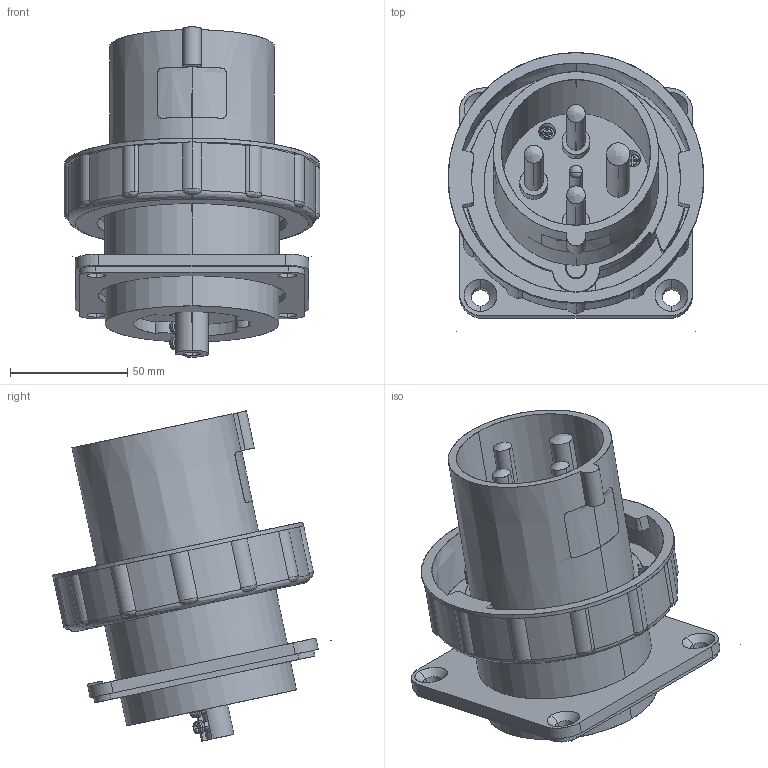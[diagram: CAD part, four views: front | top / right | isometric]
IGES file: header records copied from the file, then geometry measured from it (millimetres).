
Start section: SolidWorks IGES file using analytic representation for surfaces
Global section: file name: D:\X - Arquivos\PROEX\Empresas\P11 - METALTEX\01 - Produtos\IGES\5ª remessa\5ª etapa\TLL63642.IGS; native system: SolidWorks 2012; preprocessor: SolidWorks 2012; author: Usuario; date: 181024.170317; units: millimetre
Bounding box: 109.1 x 118.9 x 140.92 mm (x, y, z)
Surface area: 103188 mm2 (no closed solid volume)
Topology: 0 solids, 0 shells, 504 faces, 7057 edges, 7056 vertices
Faces by surface type: bspline 334, revolution 170
